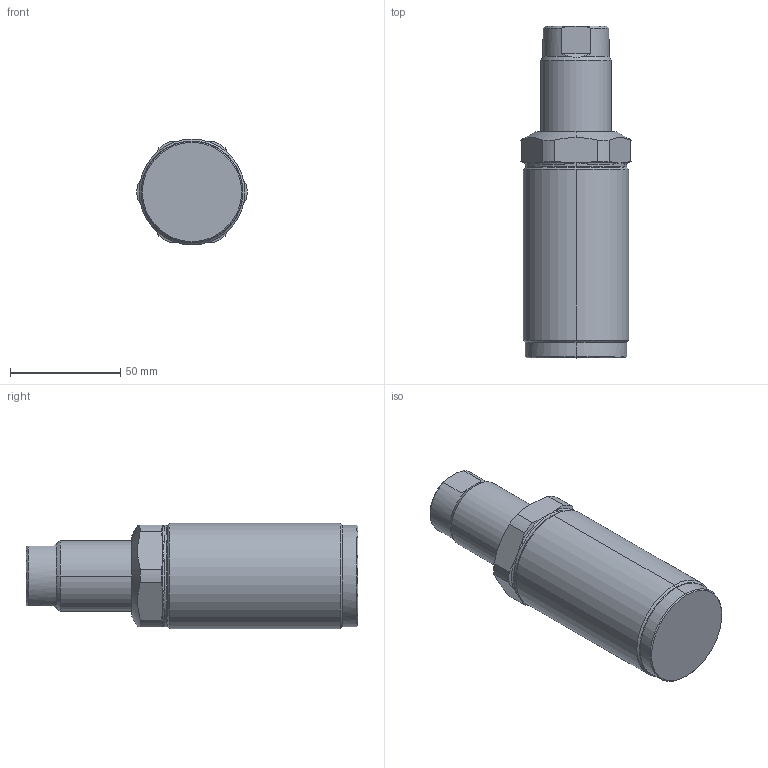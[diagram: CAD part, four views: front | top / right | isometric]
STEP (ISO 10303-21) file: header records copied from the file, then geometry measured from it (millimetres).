
FILE_DESCRIPTION((' '),'2;1');
FILE_NAME( 'TGM20-32.x_t.stp', '2024-08-27T13:43:52', (' '), ('--- Datakit www.datakit.com---'), ' Datakit CrossCadWare V2024.1 Dec 21 2023', 'Mastercam 2025', ' ');
FILE_SCHEMA(('AUTOMOTIVE_DESIGN { 1 0 10303 214 1 1 1 1 }'));
Length unit declared in the file: millimetre
Products named in the file (1): TGM20-32
Bounding box: 49.96 x 150.5 x 48 mm (x, y, z)
Volume: 191189.3 mm3; surface area: 28946.8 mm2
Topology: 2 solids, 2 shells, 82 faces, 208 edges, 119 vertices
Faces by surface type: cylinder 22, cone 22, plane 16, bspline 12, torus 10
Entity records: 4441 total; most frequent: CARTESIAN_POINT 2572, ORIENTED_EDGE 388, DIRECTION 386, EDGE_CURVE 194, AXIS2_PLACEMENT_3D 169, VERTEX_POINT 119, CIRCLE 92, EDGE_LOOP 85
